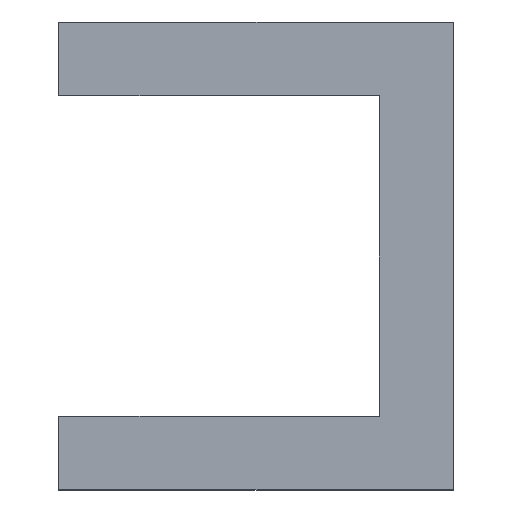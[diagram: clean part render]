
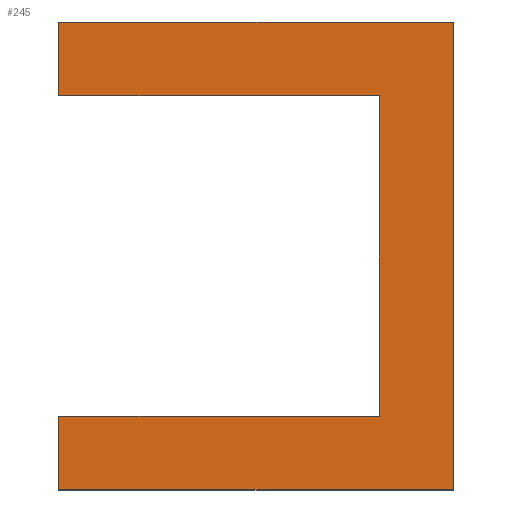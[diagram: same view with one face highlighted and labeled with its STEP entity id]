
A CAD part, left-side view. The second image highlights one B-rep face of the part: STEP entity #245.
In plain terms, the highlighted planar face has unit normal (-1, 0, 0).
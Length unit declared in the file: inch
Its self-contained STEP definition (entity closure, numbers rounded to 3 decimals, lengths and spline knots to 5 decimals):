
#6 = VERTEX_POINT ( 'NONE', #207 ) ;
#9 = EDGE_CURVE ( 'NONE', #80, #6, #120, .T. ) ;
#16 = PLANE ( 'NONE',  #139 ) ;
#20 = DIRECTION ( 'NONE',  ( 0., 0., -1. ) ) ;
#56 = VECTOR ( 'NONE', #520, 39.37008 ) ;
#61 = EDGE_LOOP ( 'NONE', ( #281, #138, #318, #107, #211, #96, #235, #150 ) ) ;
#76 = DIRECTION ( 'NONE',  ( 0., 0., -1. ) ) ;
#80 = VERTEX_POINT ( 'NONE', #418 ) ;
#81 = DIRECTION ( 'NONE',  ( 0., 1., 0. ) ) ;
#83 = CARTESIAN_POINT ( 'NONE',  ( -2.1, -0.1, -0.3165 ) ) ;
#95 = DIRECTION ( 'NONE',  ( 0., 0., 1. ) ) ;
#96 = ORIENTED_EDGE ( 'NONE', *, *, #234, .T. ) ;
#98 = LINE ( 'NONE', #267, #307 ) ;
#102 = EDGE_CURVE ( 'NONE', #312, #6, #130, .T. ) ;
#104 = LINE ( 'NONE', #435, #400 ) ;
#107 = ORIENTED_EDGE ( 'NONE', *, *, #9, .T. ) ;
#120 = LINE ( 'NONE', #291, #531 ) ;
#127 = EDGE_CURVE ( 'NONE', #128, #514, #378, .T. ) ;
#128 = VERTEX_POINT ( 'NONE', #476 ) ;
#130 = LINE ( 'NONE', #215, #56 ) ;
#138 = ORIENTED_EDGE ( 'NONE', *, *, #363, .F. ) ;
#139 = AXIS2_PLACEMENT_3D ( 'NONE', #181, #229, #20 ) ;
#145 = EDGE_CURVE ( 'NONE', #514, #256, #334, .T. ) ;
#150 = ORIENTED_EDGE ( 'NONE', *, *, #127, .F. ) ;
#164 = CARTESIAN_POINT ( 'NONE',  ( -2.1, 0.433, 0.3165 ) ) ;
#175 = CARTESIAN_POINT ( 'NONE',  ( -2.1, -0.1, 0.3165 ) ) ;
#179 = CARTESIAN_POINT ( 'NONE',  ( -2.1, 0., 0.2165 ) ) ;
#181 = CARTESIAN_POINT ( 'NONE',  ( -2.1, 0.433, -0.2165 ) ) ;
#182 = EDGE_CURVE ( 'NONE', #80, #220, #263, .T. ) ;
#187 = CARTESIAN_POINT ( 'NONE',  ( -2.1, 0., -0.2165 ) ) ;
#207 = CARTESIAN_POINT ( 'NONE',  ( -2.1, 0.433, -0.2165 ) ) ;
#211 = ORIENTED_EDGE ( 'NONE', *, *, #102, .F. ) ;
#215 = CARTESIAN_POINT ( 'NONE',  ( -2.1, 0.433, -0.2165 ) ) ;
#220 = VERTEX_POINT ( 'NONE', #179 ) ;
#224 = DIRECTION ( 'NONE',  ( 0., -1., 0. ) ) ;
#227 = EDGE_CURVE ( 'NONE', #401, #128, #104, .T. ) ;
#229 = DIRECTION ( 'NONE',  ( 1., 0., 0. ) ) ;
#234 = EDGE_CURVE ( 'NONE', #312, #256, #98, .T. ) ;
#235 = ORIENTED_EDGE ( 'NONE', *, *, #145, .F. ) ;
#236 = CARTESIAN_POINT ( 'NONE',  ( -2.1, -0.1, 0.3165 ) ) ;
#240 = LINE ( 'NONE', #333, #409 ) ;
#245 = ADVANCED_FACE ( 'NONE', ( #442 ), #16, .F. ) ;
#256 = VERTEX_POINT ( 'NONE', #83 ) ;
#261 = DIRECTION ( 'NONE',  ( 0., 0., 1. ) ) ;
#263 = LINE ( 'NONE', #187, #484 ) ;
#267 = CARTESIAN_POINT ( 'NONE',  ( -2.1, 0.433, -0.3165 ) ) ;
#281 = ORIENTED_EDGE ( 'NONE', *, *, #227, .F. ) ;
#288 = CARTESIAN_POINT ( 'NONE',  ( -2.1, 0.433, -0.3165 ) ) ;
#291 = CARTESIAN_POINT ( 'NONE',  ( -2.1, -0.4444, -0.2165 ) ) ;
#306 = CARTESIAN_POINT ( 'NONE',  ( -2.1, 0.433, 0.2165 ) ) ;
#307 = VECTOR ( 'NONE', #224, 39.37008 ) ;
#312 = VERTEX_POINT ( 'NONE', #288 ) ;
#318 = ORIENTED_EDGE ( 'NONE', *, *, #182, .F. ) ;
#333 = CARTESIAN_POINT ( 'NONE',  ( -2.1, -0.4444, 0.2165 ) ) ;
#334 = LINE ( 'NONE', #175, #440 ) ;
#363 = EDGE_CURVE ( 'NONE', #220, #401, #240, .T. ) ;
#378 = LINE ( 'NONE', #164, #432 ) ;
#381 = DIRECTION ( 'NONE',  ( 0., 1., 0. ) ) ;
#391 = DIRECTION ( 'NONE',  ( 0., -1., 0. ) ) ;
#400 = VECTOR ( 'NONE', #261, 39.37008 ) ;
#401 = VERTEX_POINT ( 'NONE', #306 ) ;
#409 = VECTOR ( 'NONE', #81, 39.37008 ) ;
#418 = CARTESIAN_POINT ( 'NONE',  ( -2.1, 0., -0.2165 ) ) ;
#432 = VECTOR ( 'NONE', #391, 39.37008 ) ;
#435 = CARTESIAN_POINT ( 'NONE',  ( -2.1, 0.433, -0.2165 ) ) ;
#440 = VECTOR ( 'NONE', #76, 39.37008 ) ;
#442 = FACE_OUTER_BOUND ( 'NONE', #61, .T. ) ;
#476 = CARTESIAN_POINT ( 'NONE',  ( -2.1, 0.433, 0.3165 ) ) ;
#484 = VECTOR ( 'NONE', #95, 39.37008 ) ;
#514 = VERTEX_POINT ( 'NONE', #236 ) ;
#520 = DIRECTION ( 'NONE',  ( 0., 0., 1. ) ) ;
#531 = VECTOR ( 'NONE', #381, 39.37008 ) ;
